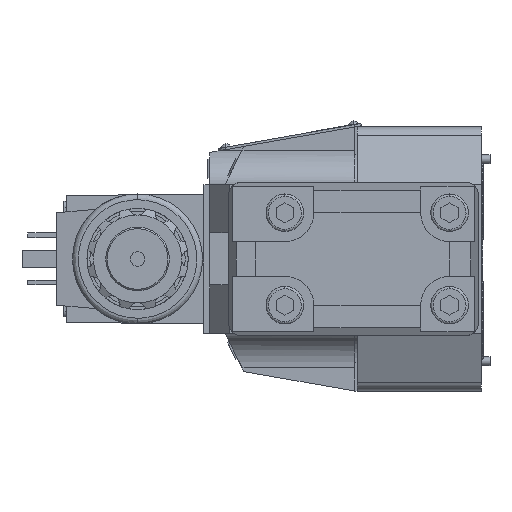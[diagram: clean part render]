
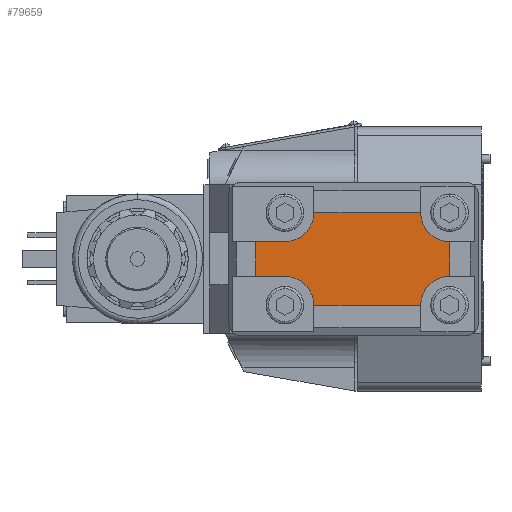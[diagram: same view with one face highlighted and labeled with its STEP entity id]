
A CAD part, left-side view. The second image highlights one B-rep face of the part: STEP entity #79659.
In plain terms, the highlighted planar face has unit normal (-1, 0, 0).
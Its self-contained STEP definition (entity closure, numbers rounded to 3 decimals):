
#620 = AXIS2_PLACEMENT_3D ( 'NONE', #53441, #79529, #65213 ) ;
#764 = VERTEX_POINT ( 'NONE', #15661 ) ;
#1641 = LINE ( 'NONE', #8131, #71892 ) ;
#3813 = EDGE_CURVE ( 'NONE', #80711, #13192, #35883, .T. ) ;
#4363 = CARTESIAN_POINT ( 'NONE',  ( -26.5, 68., 61.7 ) ) ;
#6910 = ORIENTED_EDGE ( 'NONE', *, *, #60209, .T. ) ;
#7920 = VERTEX_POINT ( 'NONE', #38853 ) ;
#8131 = CARTESIAN_POINT ( 'NONE',  ( -26.5, 101.15, 51.7 ) ) ;
#8579 = ORIENTED_EDGE ( 'NONE', *, *, #71109, .T. ) ;
#9393 = CARTESIAN_POINT ( 'NONE',  ( -26.5, 44.5, 61.7 ) ) ;
#9578 = CARTESIAN_POINT ( 'NONE',  ( -26.5, 68., 39.7 ) ) ;
#9982 = DIRECTION ( 'NONE',  ( -1., 0., 0. ) ) ;
#11686 = PLANE ( 'NONE',  #36686 ) ;
#12197 = EDGE_CURVE ( 'NONE', #72974, #61243, #23197, .T. ) ;
#13192 = VERTEX_POINT ( 'NONE', #19556 ) ;
#15661 = CARTESIAN_POINT ( 'NONE',  ( -26.5, 68., 51.7 ) ) ;
#15732 = CARTESIAN_POINT ( 'NONE',  ( -26.5, 58., 29.7 ) ) ;
#16103 = DIRECTION ( 'NONE',  ( 1., 0., 0. ) ) ;
#17601 = CIRCLE ( 'NONE', #59182, 10. ) ;
#17900 = ORIENTED_EDGE ( 'NONE', *, *, #3813, .F. ) ;
#18622 = CARTESIAN_POINT ( 'NONE',  ( -26.5, 78., 45.7 ) ) ;
#19556 = CARTESIAN_POINT ( 'NONE',  ( -26.5, 78., 39.7 ) ) ;
#20769 = ORIENTED_EDGE ( 'NONE', *, *, #12197, .F. ) ;
#22731 = CARTESIAN_POINT ( 'NONE',  ( -26.5, 11., 39.7 ) ) ;
#23197 = LINE ( 'NONE', #62714, #69445 ) ;
#24823 = DIRECTION ( 'NONE',  ( 0., -1., 0. ) ) ;
#25049 = CARTESIAN_POINT ( 'NONE',  ( -26.5, 58., 61.7 ) ) ;
#26197 = EDGE_CURVE ( 'NONE', #79915, #72554, #75408, .T. ) ;
#27662 = DIRECTION ( 'NONE',  ( 0., 1., 0. ) ) ;
#28218 = ORIENTED_EDGE ( 'NONE', *, *, #68362, .T. ) ;
#30234 = CARTESIAN_POINT ( 'NONE',  ( -26.5, 101.15, 39.7 ) ) ;
#30499 = DIRECTION ( 'NONE',  ( 1., 0., 0. ) ) ;
#32220 = ORIENTED_EDGE ( 'NONE', *, *, #79323, .T. ) ;
#32437 = CARTESIAN_POINT ( 'NONE',  ( -26.5, 11., 61.7 ) ) ;
#33205 = VECTOR ( 'NONE', #72033, 1000. ) ;
#33902 = CIRCLE ( 'NONE', #620, 10. ) ;
#34944 = CARTESIAN_POINT ( 'NONE',  ( -26.5, 11., 51.7 ) ) ;
#35883 = LINE ( 'NONE', #30234, #56446 ) ;
#36463 = FACE_OUTER_BOUND ( 'NONE', #77538, .T. ) ;
#36686 = AXIS2_PLACEMENT_3D ( 'NONE', #83346, #9982, #62957 ) ;
#37575 = EDGE_CURVE ( 'NONE', #72974, #79915, #72921, .T. ) ;
#38074 = DIRECTION ( 'NONE',  ( 0., 0., -1. ) ) ;
#38853 = CARTESIAN_POINT ( 'NONE',  ( -26.5, 21., 29.7 ) ) ;
#43923 = CARTESIAN_POINT ( 'NONE',  ( -26.5, 44.5, 29.7 ) ) ;
#44857 = AXIS2_PLACEMENT_3D ( 'NONE', #59013, #30499, #70890 ) ;
#46295 = DIRECTION ( 'NONE',  ( 1., 0., 0. ) ) ;
#46540 = AXIS2_PLACEMENT_3D ( 'NONE', #32437, #46295, #38074 ) ;
#48073 = DIRECTION ( 'NONE',  ( 0., 1., 0. ) ) ;
#53441 = CARTESIAN_POINT ( 'NONE',  ( -26.5, 68., 29.7 ) ) ;
#54083 = CARTESIAN_POINT ( 'NONE',  ( -26.5, 78., 51.7 ) ) ;
#55196 = DIRECTION ( 'NONE',  ( 0., 0., 1. ) ) ;
#56446 = VECTOR ( 'NONE', #76703, 1000. ) ;
#56752 = CARTESIAN_POINT ( 'NONE',  ( -26.5, 21., 61.7 ) ) ;
#57379 = CIRCLE ( 'NONE', #44857, 10. ) ;
#58501 = VERTEX_POINT ( 'NONE', #54083 ) ;
#59013 = CARTESIAN_POINT ( 'NONE',  ( -26.5, 11., 29.7 ) ) ;
#59182 = AXIS2_PLACEMENT_3D ( 'NONE', #4363, #16103, #55196 ) ;
#60209 = EDGE_CURVE ( 'NONE', #7920, #61243, #57379, .T. ) ;
#61243 = VERTEX_POINT ( 'NONE', #22731 ) ;
#62714 = CARTESIAN_POINT ( 'NONE',  ( -26.5, 11., 45.7 ) ) ;
#62957 = DIRECTION ( 'NONE',  ( 0., 0., 1. ) ) ;
#63132 = DIRECTION ( 'NONE',  ( 0., 0., -1. ) ) ;
#63502 = ORIENTED_EDGE ( 'NONE', *, *, #26197, .T. ) ;
#63900 = VERTEX_POINT ( 'NONE', #15732 ) ;
#65035 = ORIENTED_EDGE ( 'NONE', *, *, #84238, .T. ) ;
#65086 = LINE ( 'NONE', #18622, #33205 ) ;
#65213 = DIRECTION ( 'NONE',  ( 0., 0., -1. ) ) ;
#68362 = EDGE_CURVE ( 'NONE', #764, #58501, #1641, .T. ) ;
#68961 = EDGE_CURVE ( 'NONE', #63900, #7920, #84731, .T. ) ;
#69445 = VECTOR ( 'NONE', #63132, 1000. ) ;
#70890 = DIRECTION ( 'NONE',  ( 0., 0., 1. ) ) ;
#71109 = EDGE_CURVE ( 'NONE', #58501, #13192, #65086, .T. ) ;
#71501 = ORIENTED_EDGE ( 'NONE', *, *, #68961, .T. ) ;
#71892 = VECTOR ( 'NONE', #48073, 1000. ) ;
#72033 = DIRECTION ( 'NONE',  ( 0., 0., -1. ) ) ;
#72554 = VERTEX_POINT ( 'NONE', #25049 ) ;
#72921 = CIRCLE ( 'NONE', #46540, 10. ) ;
#72974 = VERTEX_POINT ( 'NONE', #34944 ) ;
#75408 = LINE ( 'NONE', #9393, #81789 ) ;
#76703 = DIRECTION ( 'NONE',  ( 0., 1., 0. ) ) ;
#77538 = EDGE_LOOP ( 'NONE', ( #6910, #20769, #81852, #63502, #65035, #28218, #8579, #17900, #32220, #71501 ) ) ;
#78898 = VECTOR ( 'NONE', #24823, 1000. ) ;
#79323 = EDGE_CURVE ( 'NONE', #80711, #63900, #33902, .T. ) ;
#79529 = DIRECTION ( 'NONE',  ( 1., 0., 0. ) ) ;
#79659 = ADVANCED_FACE ( 'NONE', ( #36463 ), #11686, .T. ) ;
#79915 = VERTEX_POINT ( 'NONE', #56752 ) ;
#80711 = VERTEX_POINT ( 'NONE', #9578 ) ;
#81789 = VECTOR ( 'NONE', #27662, 1000. ) ;
#81852 = ORIENTED_EDGE ( 'NONE', *, *, #37575, .T. ) ;
#83346 = CARTESIAN_POINT ( 'NONE',  ( -26.5, 44.5, 45.7 ) ) ;
#84238 = EDGE_CURVE ( 'NONE', #72554, #764, #17601, .T. ) ;
#84731 = LINE ( 'NONE', #43923, #78898 ) ;
